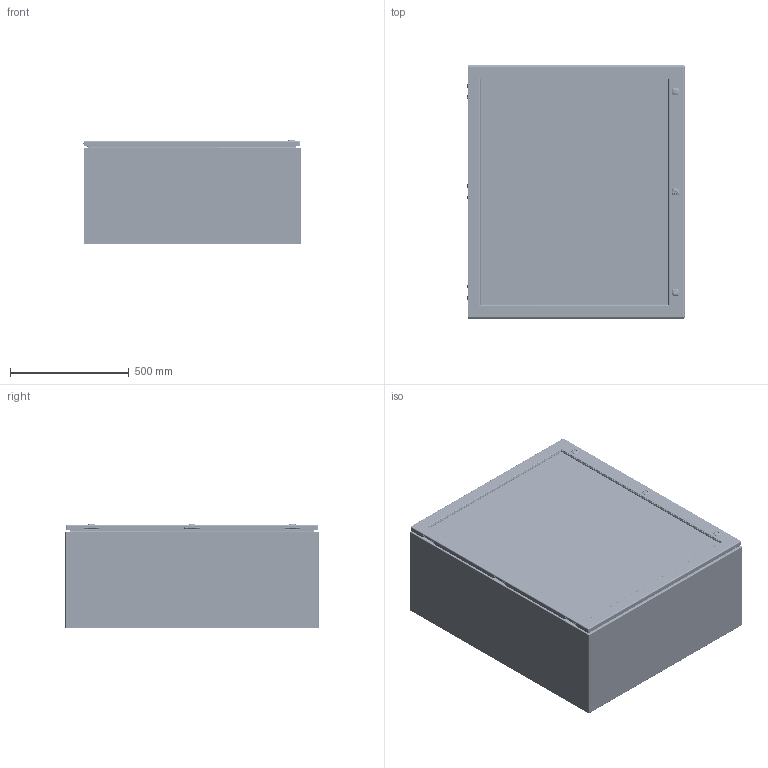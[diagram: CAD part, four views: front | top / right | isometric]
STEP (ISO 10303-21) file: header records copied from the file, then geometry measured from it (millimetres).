
FILE_DESCRIPTION(/* description */ ('5412ESW 42" x 36" x 16" Assembly'),/* implementation_level */ '2;1');
FILE_NAME(/* name */ 'C:\Vault_Workspace\Inventor_Dwg\BoxCad\Result\5412ESW423616\e-mail\3D\5412ESW423616.stp',/* time_stamp */ '2021-09-30T17:44:27-04:00',/* author */ ('BoxCad'),/* organization */ (''),/* preprocessor_version */ 'ST-DEVELOPER v18.1',/* originating_system */ 'Autodesk Inventor 2020',/* authorisation */ '');
FILE_SCHEMA (('AUTOMOTIVE_DESIGN { 1 0 10303 214 3 1 1 }'));
Products named in the file (70): 5412ESW423616; 5412ESW423616B; 5412ESW423616B-P; STK-Q-16005; STK-S-00100; STUD_M6 x 16mm; STK-Q-07610; 881SP4236G; 881SP4236G-P; STK-Q-07310; 5412ESW423616C; 5412ESW423616C-P; 5412ESW423616G; STK-K-09800; STK-K-09800-2; STK-K-09800-3; STK-Q-33014; STK-Q-90398; STK-Q-40095; STK-Q-63410; 5412ESW423616LX; 5412ESW423616LXG; 5412ESW423616_STK_G_02705; STK-Q-16052; 5412ESW423616_STK-A-60703; STK-Q-60703-2; STK-Q-60703-1; STK-Q-60703-3; STK-Q-60703-4; STK-Q-60702-A; STK-Q-60703-B; STK-Q-60703-C; STK-Q-60701; STK-Q-60701_1; STK-Q-60701_2; STK-Q-60701_3; STK-Q-60701_4; STK-Q-60701_5; STK-Q-60701_6; STK-Q-60701_7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
Assembly tree (198 placements, depth 5):
  5412ESW423616
    5412ESW423616B
      5412ESW423616B-P
      STK-Q-16005  x8
      STK-P-02400S
      STK-S-00100
      STUD_M6 x 16mm
    STK-Q-07610  x8
    881SP4236G
      881SP4236G-P
    STK-Q-07310  x8
    5412ESW423616C
      5412ESW423616C-P
      5412ESW423616G
      STK-K-09800
        STK-Q-33014
        STK-Q-90398
        STK-Q-40095  x2
        STK-Q-63410  x2
      STK-K-09800-2
        STK-Q-33014
        STK-Q-90398
        STK-Q-40095  x2
        STK-Q-63410  x2
      STK-K-09800-3
        STK-Q-33014
        STK-Q-90398
        STK-Q-40095  x2
        STK-Q-63410  x2
      5412ESW423616LX
      5412ESW423616LXG
      5412ESW423616_STK_G_02705
      STK-Q-16052  x20
      5412ESW423616_STK-A-60703
        STK-Q-60703-2
          STK-Q-60702-A
          STK-Q-60703-B
          STK-Q-60703-C
        STK-Q-60703-1
          STK-Q-60702-A
          STK-Q-60703-B
          STK-Q-60703-C
        STK-Q-60703-3
          STK-Q-60702-A
          STK-Q-60703-B
          STK-Q-60703-C
        STK-Q-60703-4
          STK-Q-60702-A
          STK-Q-60703-B
          STK-Q-60703-C
      STK-Q-60701
        STK-Q-60701-A
        STK-Q-60701-B
        STK-Q-60701-C
      STK-Q-60701_1
        STK-Q-60701-A
        STK-Q-60701-B
        STK-Q-60701-C
      STK-Q-60701_2
        STK-Q-60701-A
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Bounding box: 914.85 x 1066.8 x 439.17 mm (x, y, z)
Volume: 13700014.3 mm3; surface area: 10230058.3 mm2
Topology: 161 solids, 161 shells, 32921 faces, 89699 edges, 57736 vertices
Faces by surface type: bspline 12172, plane 10836, cylinder 7911, torus 1041, sphere 536, cone 425
Full cylindrical faces by diameter (mm): 0 x1, 0.75 x29, 0.762 x30, 1 x12, 1.1 x12, 3.2 x6, 4.4 x8, 4.5 x20, 4.521 x12, 4.75 x3, 4.85 x24, 4.95 x6, 5 x20, 5.1 x116, 5.156 x2, 5.6 x3, 5.9 x43, 6.65 x8, 6.85 x32, 6.894 x8, 7 x40, 7.3 x3, 7.366 x24, 7.9 x8, 8 x48, 8.382 x3, 9 x20, 9.5 x20, 9.6 x3, 9.906 x4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
Entity records: 205829 total; most frequent: CARTESIAN_POINT 81598, ORIENTED_EDGE 28070, DIRECTION 20856, EDGE_CURVE 14035, VERTEX_POINT 8924, AXIS2_PLACEMENT_3D 7231, LINE 6394, VECTOR 6394
